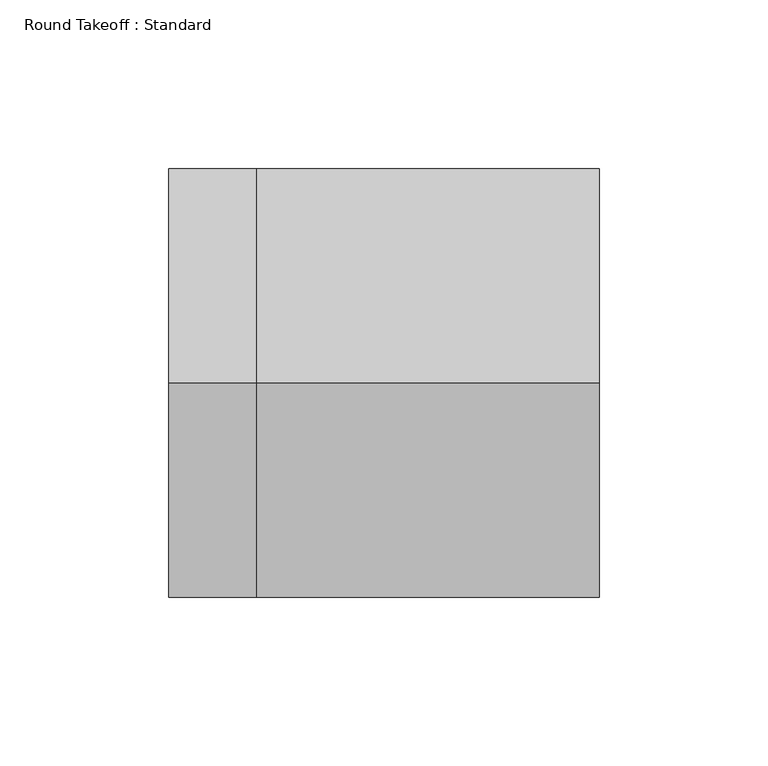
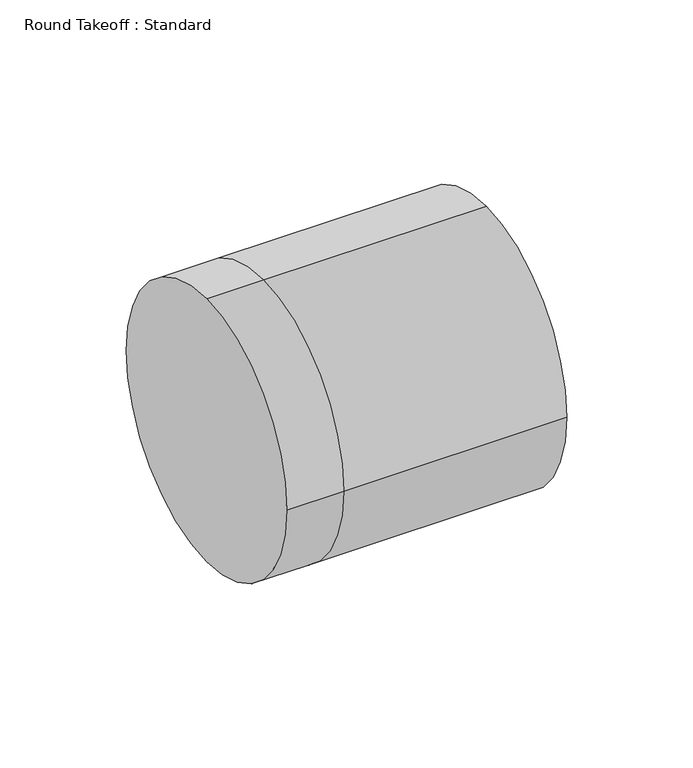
"""IFC4 building model written with IfcOpenShell, lengths in millimetres: duct fitting geometry, Round Takeoff : Standard."""

from ifc_helpers import new_model, si_unit, frame, origin, place, context, project, spatial, circle_curve, source, transform, mapped, element, save
from ifc_brep_helpers import plane_surface, cylinder_surface, advanced_brep


def round_takeoff_standard_c8132586(model_context):
    return source(origin(), model_context, "Body", "AdvancedBrep", [
        advanced_brep(
        [(101.6, 0.0, 63.5), (101.6, -63.5, 0.0), (101.6, 0.0, -63.5), (101.6, 63.5, 0.0), (0.0, 63.5, 0.0), (0.0, 0.0, 63.5), (0.0, 0.0, -63.5), (0.0, -63.5, 0.0), (-26.0773859, 0.0, 63.5), (-26.0773859, 63.5, 0.0), (-26.0773859, 0.0, -63.5), (-26.0773859, -63.5, 0.0)],
        [
            (0, 1, circle_curve(frame((101.6, 0.0, 0.0), z_axis=(1.0, 0.0, 0.0), x_axis=(0.0, 1.0, 0.0)), 63.5)),
            (1, 2, circle_curve(frame((101.6, 0.0, 0.0), z_axis=(1.0, 0.0, 0.0), x_axis=(0.0, 1.0, 0.0)), 63.5)),
            (2, 3, circle_curve(frame((101.6, 0.0, 0.0), z_axis=(1.0, 0.0, 0.0), x_axis=(0.0, 1.0, 0.0)), 63.5)),
            (3, 0, circle_curve(frame((101.6, 0.0, 0.0), z_axis=(1.0, 0.0, 0.0), x_axis=(0.0, 1.0, 0.0)), 63.5)),
            (3, 4),
            (4, 5, circle_curve(frame((0.0, 0.0, 0.0), z_axis=(1.0, 0.0, 0.0), x_axis=(0.0, 1.0, 0.0)), 63.5)),
            (5, 0),
            (2, 6),
            (6, 4, circle_curve(frame((0.0, 0.0, 0.0), z_axis=(1.0, 0.0, 0.0), x_axis=(0.0, 1.0, 0.0)), 63.5)),
            (1, 7),
            (7, 6, circle_curve(frame((0.0, 0.0, 0.0), z_axis=(1.0, 0.0, 0.0), x_axis=(0.0, 1.0, 0.0)), 63.5)),
            (5, 7, circle_curve(frame((0.0, 0.0, 0.0), z_axis=(1.0, 0.0, 0.0), x_axis=(0.0, 1.0, 0.0)), 63.5)),
            (8, 9, circle_curve(frame((-26.0773859, 0.0, 0.0), z_axis=(-1.0, 0.0, 0.0), x_axis=(0.0, 1.0, 0.0)), 63.5)),
            (9, 10, circle_curve(frame((-26.0773859, 0.0, 0.0), z_axis=(-1.0, 0.0, 0.0), x_axis=(0.0, 1.0, 0.0)), 63.5)),
            (10, 11, circle_curve(frame((-26.0773859, 0.0, 0.0), z_axis=(-1.0, 0.0, 0.0), x_axis=(0.0, 1.0, 0.0)), 63.5)),
            (11, 8, circle_curve(frame((-26.0773859, 0.0, 0.0), z_axis=(-1.0, 0.0, 0.0), x_axis=(0.0, 1.0, 0.0)), 63.5)),
            (8, 5),
            (4, 9),
            (6, 10),
            (7, 11),
        ],
        [
            plane_surface(frame((101.6, 0.0, 0.0), z_axis=(1.0, 0.0, 0.0), x_axis=(0.0, 0.0, 1.0))),
            cylinder_surface(frame((0.0, 0.0, 0.0), z_axis=(-1.0, 0.0, 0.0), x_axis=(0.0, 1.0, 0.0)), 63.5),
            plane_surface(frame((-26.0773859, 0.0, 0.0), z_axis=(-1.0, 0.0, 0.0), x_axis=(0.0, 0.0, 1.0))),
            cylinder_surface(frame((-26.0773859, 0.0, 0.0), z_axis=(-1.0, 0.0, 0.0), x_axis=(0.0, 1.0, 0.0)), 63.5),
        ],
        [
            (0, [[1, 2, 3, 4]]),
            (1, [[-4, 5, 6, 7]]),
            (1, [[-3, 8, 9, -5]]),
            (1, [[-2, 10, 11, -8]]),
            (1, [[-1, -7, 12, -10]]),
            (2, [[13, 14, 15, 16]]),
            (3, [[-13, 17, -6, 18]]),
            (3, [[-14, -18, -9, 19]]),
            (3, [[-15, -19, -11, 20]]),
            (3, [[-16, -20, -12, -17]]),
        ],
    ),
    ])


if __name__ == "__main__":
    model = new_model("IFC4")
    model_context = context("Model", 3, world=origin())
    ifc_project = project(units=[si_unit("LENGTHUNIT", "METRE", prefix="MILLI")], contexts=[model_context])
    site = spatial("IfcSite", under=ifc_project)
    building = spatial("IfcBuilding", under=site)
    placement = place(None, origin())
    round_takeoff_standard_shape = round_takeoff_standard_c8132586(model_context)
    element("IfcDuctFitting", 1, ObjectType="Round Takeoff : Standard", at=placement, inside=building, context=model_context, shape_type="MappedRepresentation", body=[
        mapped(round_takeoff_standard_shape, transform((0.0, 0.0, 0.0), x_axis=(1.0, 0.0, 0.0), y_axis=(0.0, 1.0, 0.0), z_axis=(0.0, 0.0, 1.0))),
    ])
    save(model, "model.ifc")
